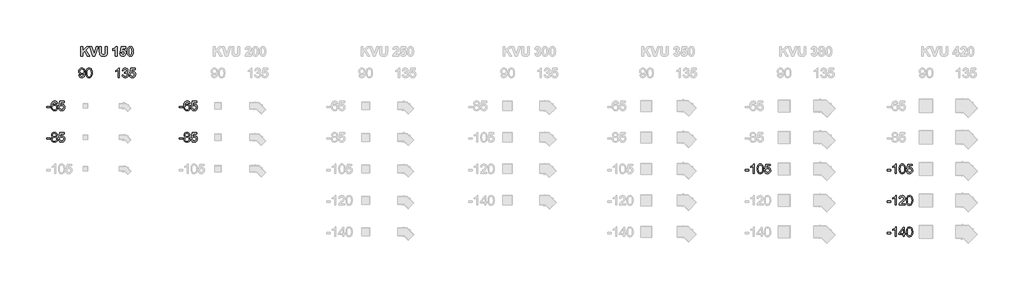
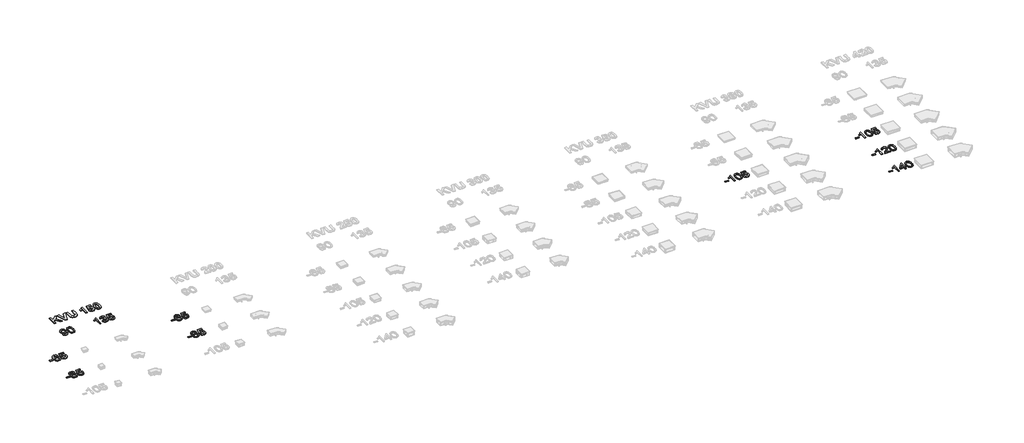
# One storey, part 3 of 6: 11 proxies.
"""IFC4 building model written with IfcOpenShell, lengths in millimetres."""

from ifc_helpers import new_model, si_unit, origin, origin_with_axes, place, context, project, spatial, polyline, outline, extrude, element, save

model = new_model("IFC4")

# Units and contexts
model_context = context("Model", 3, world=origin())
ifc_project = project(units=[si_unit("LENGTHUNIT", "METRE", prefix="MILLI")], contexts=[model_context])

# Site, building, storey
site = spatial("IfcSite", under=ifc_project)
building = spatial("IfcBuilding", under=site)
storey = spatial("IfcBuildingStorey", under=building, Name="Этаж 01", Elevation=0.0)

# Proxies
placement = place(None, origin())
element("IfcBuildingElementProxy", 1, Name="300", ObjectType="300", at=placement, inside=storey, context=model_context, shape_type="SweptSolid", body=[
    extrude(outline(polyline([(-4133.3096408, 1157.6054217), (-4133.3096408, 1195.276538), (-4015.5874023, 1195.276538), (-4015.5874023, 1157.6054217), (-4133.3096408, 1157.6054217)])), origin_with_axes(), (0.0, 0.0, 1.0), 20.0),
    extrude(outline(polyline([(-3789.5607045, 1289.4543288), (-3827.2318208, 1284.7454392), (-3833.3018737, 1303.4154505), (-3841.5056422, 1316.1625616), (-3858.5937609, 1327.9163914), (-3879.2503349, 1331.8343346), (-3896.7615179, 1329.5534662), (-3913.2426313, 1322.7108611), (-3927.396891, 1308.299084), (-3938.9575827, 1288.4610474), (-3946.7658781, 1260.4008482), (-3949.6629488, 1221.3225833), (-3934.5521958, 1238.9533279), (-3916.4432046, 1251.3785423), (-3896.3476506, 1258.7453792), (-3875.2772094, 1261.2009915), (-3857.1774152, 1259.5225299), (-3840.4755726, 1254.4871451), (-3825.1716816, 1246.0948371), (-3811.2657422, 1234.3456059), (-3799.709649, 1219.9384273), (-3791.4552968, 1203.572277), (-3786.5026854, 1185.2471551), (-3784.851815, 1164.9630616), (-3787.9604178, 1137.9881143), (-3797.2862264, 1112.9813357), (-3812.0566885, 1091.7729387), (-3831.4992519, 1076.1931362), (-3854.7309999, 1066.6190072), (-3880.8690157, 1063.4276309), (-3903.3259122, 1065.5429524), (-3923.6077065, 1071.8889168), (-3941.7143984, 1082.4655242), (-3957.6459881, 1097.2727745), (-3970.6345218, 1116.9360671), (-3979.9120458, 1142.0808015), (-3985.4785603, 1172.7069776), (-3987.3340651, 1208.8145954), (-3985.2739259, 1249.2954105), (-3979.0935084, 1283.8441283), (-3968.7928125, 1312.460749), (-3954.3718383, 1335.1452726), (-3938.7414521, 1350.1778506), (-3920.6186653, 1360.9154063), (-3900.003478, 1367.3579398), (-3876.8958901, 1369.5054509), (-3843.8416929, 1364.1895561), (-3817.3725833, 1348.2418716), (-3798.8313308, 1322.9131962), (-3789.5607045, 1289.4543288)]), holes=[polyline([(-3949.6629488, 1165.5516728), (-3947.483248, 1148.8590273), (-3940.9441455, 1132.9205398), (-3930.7906024, 1119.2169355), (-3917.7675798, 1109.2289393), (-3902.0498216, 1103.1312953), (-3883.8120717, 1101.0987472), (-3858.9524458, 1105.3109961), (-3839.4087148, 1117.9477426), (-3826.7443772, 1137.8133704), (-3822.5229313, 1163.7122628), (-3826.6891949, 1188.5718886), (-3839.1879856, 1207.5270084), (-3859.0628104, 1219.5291585), (-3885.357176, 1223.5298752), (-3910.1800137, 1219.5291585), (-3930.9377552, 1207.5270084), (-3944.9816504, 1189.0317411), (-3949.6629488, 1165.5516728)])]), origin_with_axes(), (0.0, 0.0, 1.0), 20.0),
    extrude(outline(polyline([(-3751.8895882, 1148.1876426), (-3714.2184719, 1152.8965322), (-3707.3022904, 1130.2809865), (-3695.2357609, 1114.0849817), (-3678.0740659, 1104.3453059), (-3655.8723874, 1101.0987472), (-3628.869849, 1105.6144987), (-3608.6363393, 1119.1617532), (-3595.9995927, 1140.1770122), (-3591.7873439, 1167.0967772), (-3595.7328783, 1192.4438466), (-3607.5694815, 1211.8312278), (-3627.389124, 1224.1368805), (-3655.2837763, 1228.2387648), (-3673.5583144, 1226.6016899), (-3688.3563676, 1221.6904653), (-3709.5095823, 1204.6943171), (-3747.1806986, 1209.4032066), (-3714.2184719, 1364.7965614), (-3568.2428962, 1364.7965614), (-3568.2428962, 1327.1254451), (-3683.7578427, 1327.1254451), (-3699.8710741, 1244.131267), (-3672.9605061, 1260.4652276), (-3644.7623512, 1265.9098811), (-3626.4165359, 1264.2222224), (-3609.5652413, 1259.1592465), (-3594.2084673, 1250.7209532), (-3580.3462138, 1238.9073426), (-3568.8705948, 1224.4403832), (-3560.6737241, 1208.0420432), (-3555.7556017, 1189.7123228), (-3554.1162276, 1169.4512219), (-3560.0207336, 1131.7801056), (-3567.4013661, 1114.9862926), (-3577.7342517, 1099.5536429), (-3593.3876306, 1083.7485126), (-3611.6529716, 1072.4591339), (-3632.5302748, 1065.6855067), (-3656.0195402, 1063.4276309), (-3693.0192719, 1069.2309694), (-3708.6979427, 1076.4851425), (-3722.4958168, 1086.6409848), (-3733.9760343, 1099.1926587), (-3742.7017354, 1113.6343262), (-3751.8895882, 1148.1876426)])), origin_with_axes(), (0.0, 0.0, 1.0), 20.0),
])
element("IfcBuildingElementProxy", 2, Name="300", ObjectType="300", at=placement, inside=storey, context=model_context, shape_type="SweptSolid", body=[
    extrude(outline(polyline([(-3108.4733893, 2189.3511025), (-3070.802273, 2194.0599921), (-3064.3643381, 2172.6768511), (-3053.8797013, 2158.1179211), (-3039.6058798, 2149.7578028), (-3021.8003913, 2146.9710967), (-3005.8251156, 2148.7645214), (-2991.3029739, 2154.1447956), (-2979.2364444, 2162.523308), (-2970.6280057, 2173.3114475), (-2958.3039589, 2206.0529451), (-2952.8593054, 2249.7573261), (-2953.0800346, 2257.114966), (-2966.1306484, 2241.1856756), (-2983.20957, 2228.5673232), (-3003.0843948, 2220.3451606), (-3024.522718, 2217.6044398), (-3042.4178778, 2219.2783028), (-3058.8736993, 2224.2998921), (-3073.8901825, 2232.6692075), (-3087.4673274, 2244.386249), (-3098.7176187, 2258.8394129), (-3106.753541, 2275.4170953), (-3111.5750944, 2294.1192962), (-3113.1822789, 2314.9460157), (-3111.4969195, 2336.4671124), (-3106.4408413, 2355.7809171), (-3098.0140444, 2372.8874299), (-3086.2165286, 2387.7866507), (-3071.8806271, 2399.8577787), (-3055.8386729, 2408.4800129), (-3038.0906659, 2413.6533535), (-3018.6366061, 2415.3778004), (-2990.5396187, 2411.441463), (-2964.962623, 2399.632451), (-2943.570285, 2380.5393754), (-2928.0272707, 2354.7508476), (-2918.5635064, 2319.1030822), (-2915.4089183, 2270.4322943), (-2918.5543093, 2218.8276474), (-2927.9904825, 2178.9400421), (-2943.6346643, 2148.9668565), (-2965.4040814, 2127.1054689), (-2992.3606346, 2113.7513525), (-3023.5662248, 2109.2999804), (-3055.7742935, 2114.5514959), (-3081.4708509, 2130.3060423), (-3099.4418864, 2155.5703383), (-3108.4733893, 2189.3511025)]), holes=[polyline([(-2953.0800346, 2315.8289325), (-2957.1451306, 2341.3599429), (-2969.3404188, 2361.0048415), (-2988.2679474, 2373.5312234), (-3012.529765, 2377.7066841), (-3037.6928935, 2373.2093267), (-3057.8528268, 2359.7172545), (-3071.0965786, 2339.0698775), (-3075.5111626, 2313.1066057), (-3071.3357019, 2289.8288725), (-3058.80932, 2271.3519992), (-3039.1460273, 2259.2946669), (-3013.5598346, 2255.2755561), (-2989.491155, 2259.2946669), (-2970.1129709, 2271.3519992), (-2957.3382687, 2290.5094541), (-2953.0800346, 2315.8289325)])]), origin_with_axes(), (0.0, 0.0, 1.0), 20.0),
    extrude(outline(polyline([(-2882.4466915, 2262.265314), (-2879.6783795, 2310.5038406), (-2871.3734434, 2348.9751002), (-2857.6146568, 2378.2677041), (-2838.4847931, 2398.9702634), (-2813.8458964, 2411.2759161), (-2783.5600112, 2415.3778004), (-2760.3466573, 2412.9497792), (-2739.5613246, 2405.6657157), (-2722.1789003, 2393.8107184), (-2709.1742718, 2377.6698959), (-2699.3518225, 2357.3812038), (-2691.515936, 2333.082598), (-2686.3839822, 2302.2264957), (-2684.6733309, 2262.265314), (-2687.4140518, 2214.3026988), (-2695.6362143, 2175.9234097), (-2709.3122275, 2146.6032147), (-2728.4145001, 2125.817882), (-2753.108579, 2113.4294558), (-2783.5600112, 2109.2999804), (-2804.3085557, 2111.0934051), (-2822.7026555, 2116.4736793), (-2838.7423105, 2125.4408029), (-2852.4275207, 2137.994776), (-2865.5609079, 2160.6884966), (-2874.9418988, 2188.9648264), (-2880.5704933, 2222.8237656), (-2882.4466915, 2262.265314)]), holes=[polyline([(-2844.7755752, 2262.3388904), (-2840.3609913, 2203.082298), (-2834.8427613, 2182.8142993), (-2827.1172394, 2168.786499), (-2807.3987645, 2152.4249473), (-2783.5600112, 2146.9710967), (-2759.7212579, 2152.4433414), (-2740.002783, 2168.8600754), (-2732.2772611, 2182.9108683), (-2726.7590311, 2203.1742685), (-2722.3444472, 2262.3388904), (-2726.6118783, 2320.2619105), (-2731.9461673, 2340.4632306), (-2739.4141718, 2354.824424), (-2759.0958585, 2371.986119), (-2784.0014696, 2377.7066841), (-2807.5827055, 2372.6667007), (-2826.5286282, 2357.5467507), (-2834.5116675, 2341.9117659), (-2840.2138385, 2320.8321276), (-2844.7755752, 2262.3388904)])]), origin_with_axes(), (0.0, 0.0, 1.0), 20.0),
])
element("IfcBuildingElementProxy", 3, Name="300", ObjectType="300", at=placement, inside=storey, context=model_context, shape_type="SweptSolid", body=[
    extrude(outline(polyline([(-1827.2833864, 2114.0088699), (-1864.9545027, 2114.0088699), (-1864.9545027, 2348.8647356), (-1900.6390563, 2323.4440898), (-1940.2967353, 2304.4245906), (-1940.2967353, 2340.0355677), (-1910.7098259, 2356.130405), (-1885.0776479, 2375.2786629), (-1864.8717293, 2395.6409313), (-1851.5635981, 2415.3778004), (-1827.2833864, 2415.3778004), (-1827.2833864, 2114.0088699)])), origin_with_axes(), (0.0, 0.0, 1.0), 20.0),
    extrude(outline(polyline([(-1737.8144852, 2194.0599921), (-1700.1433689, 2198.7688816), (-1691.7096741, 2175.0956752), (-1679.3580362, 2159.1112025), (-1662.4814496, 2150.0061231), (-1640.4729093, 2146.9710967), (-1614.6475932, 2151.1465573), (-1594.7083891, 2163.6729393), (-1581.9612779, 2182.3613446), (-1577.7122409, 2205.0228755), (-1581.9244897, 2226.5347752), (-1594.5612363, 2243.9815788), (-1613.6911, 2255.5422705), (-1637.3827005, 2259.3958344), (-1663.7966278, 2255.2755561), (-1659.602773, 2292.9466724), (-1653.5695083, 2292.505214), (-1630.9999479, 2295.2091466), (-1610.8216205, 2303.3209446), (-1596.5845872, 2317.042943), (-1591.8389095, 2336.577477), (-1595.2786062, 2352.8470582), (-1605.5976961, 2366.0448248), (-1621.3430455, 2374.7912192), (-1641.0615205, 2377.7066841), (-1660.8167836, 2374.7636281), (-1676.9668032, 2365.9344602), (-1688.7574211, 2351.2191804), (-1695.4344793, 2330.6177887), (-1733.1055956, 2335.3266782), (-1722.0139535, 2369.1534277), (-1702.2770845, 2394.4085266), (-1675.274546, 2410.1354819), (-1642.3858956, 2415.3778004), (-1618.7034922, 2412.7934293), (-1596.9524692, 2405.0403163), (-1578.6135518, 2392.80824), (-1565.1674649, 2376.7869791), (-1556.9177111, 2358.3285), (-1554.1677932, 2338.784769), (-1556.7797554, 2320.5746102), (-1564.6156419, 2304.0567086), (-1577.5650881, 2289.9852223), (-1595.5177295, 2279.1143093), (-1571.9364936, 2269.5861657), (-1554.4620988, 2253.3625697), (-1543.6463681, 2231.3264382), (-1540.0411246, 2204.3606879), (-1541.8437464, 2185.2492183), (-1547.2516117, 2167.6460648), (-1556.2647206, 2151.5512275), (-1568.883073, 2136.9647064), (-1584.2559419, 2124.8613888), (-1601.5326001, 2116.2161619), (-1620.7130476, 2111.0290257), (-1641.7972844, 2109.2999804), (-1660.8535718, 2110.7761069), (-1678.217602, 2115.2044864), (-1693.889375, 2122.5851189), (-1707.8688908, 2132.9180045), (-1719.5905309, 2145.5961377), (-1728.4886766, 2160.0125134), (-1734.5633281, 2176.1671315), (-1737.8144852, 2194.0599921)])), origin_with_axes(), (0.0, 0.0, 1.0), 20.0),
    extrude(outline(polyline([(-1507.0788978, 2194.0599921), (-1469.4077815, 2198.7688816), (-1462.4916, 2176.1533359), (-1450.4250706, 2159.9573311), (-1433.2633755, 2150.2176553), (-1411.0616971, 2146.9710967), (-1384.0591586, 2151.4868482), (-1363.8256489, 2165.0341026), (-1351.1889024, 2186.0493616), (-1346.9766535, 2212.9691266), (-1350.9221879, 2238.3161961), (-1362.7587911, 2257.7035772), (-1382.5784336, 2270.00923), (-1410.4730859, 2274.1111142), (-1428.747624, 2272.4740393), (-1443.5456772, 2267.5628147), (-1464.698892, 2250.5666665), (-1502.3700083, 2255.2755561), (-1469.4077815, 2410.6689108), (-1323.4322058, 2410.6689108), (-1323.4322058, 2372.9977945), (-1438.9471523, 2372.9977945), (-1455.0603837, 2290.0036164), (-1428.1498157, 2306.337577), (-1399.9516608, 2311.7822305), (-1381.6058456, 2310.0945719), (-1364.7545509, 2305.0315959), (-1349.3977769, 2296.5933026), (-1335.5355235, 2284.7796921), (-1324.0599045, 2270.3127326), (-1315.8630338, 2253.9143927), (-1310.9449113, 2235.5846723), (-1309.3055372, 2215.3235714), (-1315.2100432, 2177.6524551), (-1322.5906758, 2160.858642), (-1332.9235613, 2145.4259923), (-1348.5769402, 2129.6208621), (-1366.8422813, 2118.3314834), (-1387.7195845, 2111.5578561), (-1411.2088499, 2109.2999804), (-1448.2085815, 2115.1033188), (-1463.8872523, 2122.3574919), (-1477.6851264, 2132.5133343), (-1489.1653439, 2145.0650081), (-1497.891045, 2159.5066757), (-1507.0788978, 2194.0599921)])), origin_with_axes(), (0.0, 0.0, 1.0), 20.0),
])
element("IfcBuildingElementProxy", 4, Name="300", ObjectType="300", at=placement, inside=storey, context=model_context, shape_type="SweptSolid", body=[
    extrude(outline(polyline([(-4133.3096408, 157.6054217), (-4133.3096408, 195.276538), (-4015.5874023, 195.276538), (-4015.5874023, 157.6054217), (-4133.3096408, 157.6054217)])), origin_with_axes(), (0.0, 0.0, 1.0), 20.0),
    extrude(outline(polyline([(-3927.7371819, 234.1248767), (-3947.9063123, 244.0576906), (-3962.060572, 257.5221716), (-3970.4206904, 274.2424083), (-3973.2073965, 293.9424891), (-3971.6898833, 309.3061609), (-3967.1373436, 323.3914428), (-3959.5497774, 336.1983348), (-3948.9271848, 347.7268368), (-3935.780002, 357.2549805), (-3920.6186653, 364.0607974), (-3884.25353, 369.5054509), (-3847.6676656, 363.9320387), (-3832.340782, 356.9652734), (-3818.9912641, 347.211802), (-3808.1755334, 335.4579723), (-3800.4500115, 322.4901319), (-3795.8146984, 308.308281), (-3794.269594, 292.9124195), (-3797.0195119, 273.8469351), (-3805.2692657, 257.411807), (-3819.1108258, 244.0300994), (-3838.6361626, 234.1248767), (-3815.4503999, 222.1779089), (-3798.5738134, 204.5839525), (-3788.2823146, 182.189136), (-3784.851815, 155.8395881), (-3786.5532692, 137.0500152), (-3791.6576319, 119.8239408), (-3800.164903, 104.1613649), (-3812.0750826, 90.0622874), (-3826.7627713, 78.4096252), (-3843.6025696, 70.0862951), (-3862.5944776, 65.092297), (-3883.7384953, 63.4276309), (-3904.8825129, 65.0991948), (-3923.8744209, 70.1138862), (-3940.7142193, 78.4717053), (-3955.4019079, 90.172652), (-3967.3120875, 104.3705977), (-3975.8193586, 120.2194139), (-3980.9237213, 137.7191006), (-3982.6251756, 156.8696577), (-3979.0567202, 184.2400782), (-3968.3513541, 206.7544563), (-3951.0609004, 223.6402398), (-3927.7371819, 234.1248767)]), holes=[polyline([(-3935.5362802, 292.8388431), (-3932.1977511, 276.3945179), (-3922.1821638, 263.2611307), (-3905.7838238, 254.652692), (-3883.2970369, 251.7832125), (-3861.3344817, 254.6342979), (-3845.1844622, 263.1875543), (-3835.2516483, 275.8794832), (-3831.9407103, 291.146586), (-3835.3620129, 306.9931029), (-3845.6259206, 320.098899), (-3861.9966693, 328.9004757), (-3883.7384953, 331.8343346), (-3905.6182769, 328.9648551), (-3921.9614346, 320.3564164), (-3932.1425688, 307.7380639), (-3935.5362802, 292.8388431)]), polyline([(-3944.9540593, 158.1940329), (-3938.6632771, 129.8303311), (-3929.9536709, 117.6626341), (-3916.4064164, 108.6035399), (-3900.1828204, 102.9749454), (-3883.4441897, 101.0987472), (-3857.8028146, 105.0442816), (-3838.5625862, 116.8808848), (-3826.532845, 134.8059351), (-3822.5229313, 157.0168105), (-3826.6616037, 179.604765), (-3839.077621, 197.9252884), (-3858.7593078, 210.0653942), (-3884.6949884, 214.1120962), (-3909.9776786, 210.1205765), (-3929.0247689, 198.1460176), (-3940.9717367, 180.1749821), (-3944.9540593, 158.1940329)])]), origin_with_axes(), (0.0, 0.0, 1.0), 20.0),
    extrude(outline(polyline([(-3751.8895882, 148.1876426), (-3714.2184719, 152.8965322), (-3707.3022904, 130.2809865), (-3695.2357609, 114.0849817), (-3678.0740659, 104.3453059), (-3655.8723874, 101.0987472), (-3628.869849, 105.6144987), (-3608.6363393, 119.1617532), (-3595.9995927, 140.1770122), (-3591.7873439, 167.0967772), (-3595.7328783, 192.4438466), (-3607.5694815, 211.8312278), (-3627.389124, 224.1368805), (-3655.2837763, 228.2387648), (-3673.5583144, 226.6016899), (-3688.3563676, 221.6904653), (-3709.5095823, 204.6943171), (-3747.1806986, 209.4032066), (-3714.2184719, 364.7965614), (-3568.2428962, 364.7965614), (-3568.2428962, 327.1254451), (-3683.7578427, 327.1254451), (-3699.8710741, 244.131267), (-3672.9605061, 260.4652276), (-3644.7623512, 265.9098811), (-3626.4165359, 264.2222224), (-3609.5652413, 259.1592465), (-3594.2084673, 250.7209532), (-3580.3462138, 238.9073426), (-3568.8705948, 224.4403832), (-3560.6737241, 208.0420432), (-3555.7556017, 189.7123228), (-3554.1162276, 169.4512219), (-3560.0207336, 131.7801056), (-3567.4013661, 114.9862926), (-3577.7342517, 99.5536429), (-3593.3876306, 83.7485126), (-3611.6529716, 72.4591339), (-3632.5302748, 65.6855067), (-3656.0195402, 63.4276309), (-3693.0192719, 69.2309694), (-3708.6979427, 76.4851425), (-3722.4958168, 86.6409848), (-3733.9760343, 99.1926587), (-3742.7017354, 113.6343262), (-3751.8895882, 148.1876426)])), origin_with_axes(), (0.0, 0.0, 1.0), 20.0),
])
element("IfcBuildingElementProxy", 5, Name="300", ObjectType="300", at=placement, inside=storey, context=model_context, shape_type="SweptSolid", body=[
    extrude(outline(polyline([(66.6903592, 1157.6054217), (66.6903592, 1195.276538), (184.4125977, 1195.276538), (184.4125977, 1157.6054217), (66.6903592, 1157.6054217)])), origin_with_axes(), (0.0, 0.0, 1.0), 20.0),
    extrude(outline(polyline([(410.4392955, 1289.4543288), (372.7681792, 1284.7454392), (366.6981263, 1303.4154505), (358.4943578, 1316.1625616), (341.4062391, 1327.9163914), (320.7496651, 1331.8343346), (303.2384821, 1329.5534662), (286.7573687, 1322.7108611), (272.603109, 1308.299084), (261.0424173, 1288.4610474), (253.2341219, 1260.4008482), (250.3370512, 1221.3225833), (265.4478042, 1238.9533279), (283.5567954, 1251.3785423), (303.6523494, 1258.7453792), (324.7227906, 1261.2009915), (342.8225848, 1259.5225299), (359.5244274, 1254.4871451), (374.8283184, 1246.0948371), (388.7342578, 1234.3456059), (400.290351, 1219.9384273), (408.5447032, 1203.572277), (413.4973146, 1185.2471551), (415.148185, 1164.9630616), (412.0395822, 1137.9881143), (402.7137736, 1112.9813357), (387.9433115, 1091.7729387), (368.5007481, 1076.1931362), (345.2690001, 1066.6190072), (319.1309843, 1063.4276309), (296.6740878, 1065.5429524), (276.3922935, 1071.8889168), (258.2856016, 1082.4655242), (242.3540119, 1097.2727745), (229.3654782, 1116.9360671), (220.0879542, 1142.0808015), (214.5214397, 1172.7069776), (212.6659349, 1208.8145954), (214.7260741, 1249.2954105), (220.9064916, 1283.8441283), (231.2071875, 1312.460749), (245.6281617, 1335.1452726), (261.2585479, 1350.1778506), (279.3813347, 1360.9154063), (299.996522, 1367.3579398), (323.1041099, 1369.5054509), (356.1583071, 1364.1895561), (382.6274167, 1348.2418716), (401.1686692, 1322.9131962), (410.4392955, 1289.4543288)]), holes=[polyline([(250.3370512, 1165.5516728), (252.516752, 1148.8590273), (259.0558545, 1132.9205398), (269.2093976, 1119.2169355), (282.2324202, 1109.2289393), (297.9501784, 1103.1312953), (316.1879283, 1101.0987472), (341.0475542, 1105.3109961), (360.5912852, 1117.9477426), (373.2556228, 1137.8133704), (377.4770687, 1163.7122628), (373.3108051, 1188.5718886), (360.8120144, 1207.5270084), (340.9371896, 1219.5291585), (314.642824, 1223.5298752), (289.8199863, 1219.5291585), (269.0622448, 1207.5270084), (255.0183496, 1189.0317411), (250.3370512, 1165.5516728)])]), origin_with_axes(), (0.0, 0.0, 1.0), 20.0),
    extrude(outline(polyline([(448.1104118, 1148.1876426), (485.7815281, 1152.8965322), (492.6977096, 1130.2809865), (504.7642391, 1114.0849817), (521.9259341, 1104.3453059), (544.1276126, 1101.0987472), (571.130151, 1105.6144987), (591.3636607, 1119.1617532), (604.0004073, 1140.1770122), (608.2126561, 1167.0967772), (604.2671217, 1192.4438466), (592.4305185, 1211.8312278), (572.610876, 1224.1368805), (544.7162237, 1228.2387648), (526.4416856, 1226.6016899), (511.6436324, 1221.6904653), (490.4904177, 1204.6943171), (452.8193014, 1209.4032066), (485.7815281, 1364.7965614), (631.7571038, 1364.7965614), (631.7571038, 1327.1254451), (516.2421573, 1327.1254451), (500.1289259, 1244.131267), (527.0394939, 1260.4652276), (555.2376488, 1265.9098811), (573.5834641, 1264.2222224), (590.4347587, 1259.1592465), (605.7915327, 1250.7209532), (619.6537862, 1238.9073426), (631.1294052, 1224.4403832), (639.3262759, 1208.0420432), (644.2443983, 1189.7123228), (645.8837724, 1169.4512219), (639.9792664, 1131.7801056), (632.5986339, 1114.9862926), (622.2657483, 1099.5536429), (606.6123694, 1083.7485126), (588.3470284, 1072.4591339), (567.4697252, 1065.6855067), (543.9804598, 1063.4276309), (506.9807281, 1069.2309694), (491.3020573, 1076.4851425), (477.5041832, 1086.6409848), (466.0239657, 1099.1926587), (457.2982646, 1113.6343262), (448.1104118, 1148.1876426)])), origin_with_axes(), (0.0, 0.0, 1.0), 20.0),
])
element("IfcBuildingElementProxy", 6, Name="300", ObjectType="300", at=placement, inside=storey, context=model_context, shape_type="SweptSolid", body=[
    extrude(outline(polyline([(66.6903592, 157.6054217), (66.6903592, 195.276538), (184.4125977, 195.276538), (184.4125977, 157.6054217), (66.6903592, 157.6054217)])), origin_with_axes(), (0.0, 0.0, 1.0), 20.0),
    extrude(outline(polyline([(272.2628181, 234.1248767), (252.0936877, 244.0576906), (237.939428, 257.5221716), (229.5793096, 274.2424083), (226.7926035, 293.9424891), (228.3101167, 309.3061609), (232.8626564, 323.3914428), (240.4502226, 336.1983348), (251.0728152, 347.7268368), (264.219998, 357.2549805), (279.3813347, 364.0607974), (315.74647, 369.5054509), (352.3323344, 363.9320387), (367.659218, 356.9652734), (381.0087359, 347.211802), (391.8244666, 335.4579723), (399.5499885, 322.4901319), (404.1853016, 308.308281), (405.730406, 292.9124195), (402.9804881, 273.8469351), (394.7307343, 257.411807), (380.8891742, 244.0300994), (361.3638374, 234.1248767), (384.5496001, 222.1779089), (401.4261866, 204.5839525), (411.7176854, 182.189136), (415.148185, 155.8395881), (413.4467308, 137.0500152), (408.3423681, 119.8239408), (399.835097, 104.1613649), (387.9249174, 90.0622874), (373.2372287, 78.4096252), (356.3974304, 70.0862951), (337.4055224, 65.092297), (316.2615047, 63.4276309), (295.1174871, 65.0991948), (276.1255791, 70.1138862), (259.2857807, 78.4717053), (244.5980921, 90.172652), (232.6879125, 104.3705977), (224.1806414, 120.2194139), (219.0762787, 137.7191006), (217.3748244, 156.8696577), (220.9432798, 184.2400782), (231.6486459, 206.7544563), (248.9390996, 223.6402398), (272.2628181, 234.1248767)]), holes=[polyline([(264.4637198, 292.8388431), (267.8022489, 276.3945179), (277.8178362, 263.2611307), (294.2161762, 254.652692), (316.7029631, 251.7832125), (338.6655183, 254.6342979), (354.8155378, 263.1875543), (364.7483517, 275.8794832), (368.0592897, 291.146586), (364.6379871, 306.9931029), (354.3740794, 320.098899), (338.0033307, 328.9004757), (316.2615047, 331.8343346), (294.3817231, 328.9648551), (278.0385654, 320.3564164), (267.8574312, 307.7380639), (264.4637198, 292.8388431)]), polyline([(255.0459407, 158.1940329), (261.3367229, 129.8303311), (270.0463291, 117.6626341), (283.5935836, 108.6035399), (299.8171796, 102.9749454), (316.5558103, 101.0987472), (342.1971854, 105.0442816), (361.4374138, 116.8808848), (373.467155, 134.8059351), (377.4770687, 157.0168105), (373.3383963, 179.604765), (360.922379, 197.9252884), (341.2406922, 210.0653942), (315.3050116, 214.1120962), (290.0223214, 210.1205765), (270.9752311, 198.1460176), (259.0282633, 180.1749821), (255.0459407, 158.1940329)])]), origin_with_axes(), (0.0, 0.0, 1.0), 20.0),
    extrude(outline(polyline([(448.1104118, 148.1876426), (485.7815281, 152.8965322), (492.6977096, 130.2809865), (504.7642391, 114.0849817), (521.9259341, 104.3453059), (544.1276126, 101.0987472), (571.130151, 105.6144987), (591.3636607, 119.1617532), (604.0004073, 140.1770122), (608.2126561, 167.0967772), (604.2671217, 192.4438466), (592.4305185, 211.8312278), (572.610876, 224.1368805), (544.7162237, 228.2387648), (526.4416856, 226.6016899), (511.6436324, 221.6904653), (490.4904177, 204.6943171), (452.8193014, 209.4032066), (485.7815281, 364.7965614), (631.7571038, 364.7965614), (631.7571038, 327.1254451), (516.2421573, 327.1254451), (500.1289259, 244.131267), (527.0394939, 260.4652276), (555.2376488, 265.9098811), (573.5834641, 264.2222224), (590.4347587, 259.1592465), (605.7915327, 250.7209532), (619.6537862, 238.9073426), (631.1294052, 224.4403832), (639.3262759, 208.0420432), (644.2443983, 189.7123228), (645.8837724, 169.4512219), (639.9792664, 131.7801056), (632.5986339, 114.9862926), (622.2657483, 99.5536429), (606.6123694, 83.7485126), (588.3470284, 72.4591339), (567.4697252, 65.6855067), (543.9804598, 63.4276309), (506.9807281, 69.2309694), (491.3020573, 76.4851425), (477.5041832, 86.6409848), (466.0239657, 99.1926587), (457.2982646, 113.6343262), (448.1104118, 148.1876426)])), origin_with_axes(), (0.0, 0.0, 1.0), 20.0),
])
element("IfcBuildingElementProxy", 7, Name="300", ObjectType="300", at=placement, inside=storey, context=model_context, shape_type="SweptSolid", body=[
    extrude(outline(polyline([(18006.6903592, -842.3945783), (18006.6903592, -804.723462), (18124.4125977, -804.723462), (18124.4125977, -842.3945783), (18006.6903592, -842.3945783)])), origin_with_axes(), (0.0, 0.0, 1.0), 20.0),
    extrude(outline(polyline([(18298.6415106, -931.8634795), (18260.9703943, -931.8634795), (18260.9703943, -697.0076138), (18225.2858408, -722.4282597), (18185.6281617, -741.4477588), (18185.6281617, -705.8367817), (18215.2150711, -689.7419444), (18240.8472491, -670.5936865), (18261.0531677, -650.2314181), (18274.3612989, -630.4945491), (18298.6415106, -630.4945491), (18298.6415106, -931.8634795)])), origin_with_axes(), (0.0, 0.0, 1.0), 20.0),
    extrude(outline(polyline([(18388.1104118, -783.6070355), (18390.8787238, -735.3685089), (18399.1836599, -696.8972492), (18412.9424465, -667.6046453), (18432.0723102, -646.9020861), (18456.7112069, -634.5964333), (18486.9970921, -630.4945491), (18510.210446, -632.9225702), (18530.9957787, -640.2066337), (18548.378203, -652.061631), (18561.3828315, -668.2024536), (18571.2052808, -688.4911456), (18579.0411673, -712.7897514), (18584.1731211, -743.6458537), (18585.8837724, -783.6070355), (18583.1430516, -831.5696506), (18574.920889, -869.9489397), (18561.2448758, -899.2691348), (18542.1426032, -920.0544675), (18517.4485243, -932.4428937), (18486.9970921, -936.5723691), (18466.2485476, -934.7789443), (18447.8544478, -929.3986702), (18431.8147928, -920.4315465), (18418.1295826, -907.8775734), (18404.9961954, -885.1838529), (18395.6152045, -856.907523), (18389.98661, -823.0485839), (18388.1104118, -783.6070355)]), holes=[polyline([(18425.7815281, -783.5334591), (18430.1961121, -842.7900514), (18435.714342, -863.0580501), (18443.4398639, -877.0858504), (18463.1583388, -893.4474022), (18486.9970921, -898.9012528), (18510.8358454, -893.4290081), (18530.5543203, -877.012274), (18538.2798422, -862.9614811), (18543.7980722, -842.6980809), (18548.2126561, -783.5334591), (18543.945225, -725.6104389), (18538.610936, -705.4091189), (18531.1429315, -691.0479255), (18511.4612448, -673.8862304), (18486.5556337, -668.1656654), (18462.9743978, -673.2056487), (18444.0284751, -688.3255987), (18436.0454358, -703.9605835), (18430.3432649, -725.0402218), (18425.7815281, -783.5334591)])]), origin_with_axes(), (0.0, 0.0, 1.0), 20.0),
    extrude(outline(polyline([(18618.8459992, -851.8123574), (18656.5171155, -847.1034678), (18663.433297, -869.7190135), (18675.4998264, -885.9150183), (18692.6615215, -895.6546941), (18714.8631999, -898.9012528), (18741.8657384, -894.3855013), (18762.0992481, -880.8382468), (18774.7359946, -859.8229878), (18778.9482435, -832.9032228), (18775.0027091, -807.5561534), (18763.1661059, -788.1687722), (18743.3464634, -775.8631195), (18715.4518111, -771.7612352), (18697.177273, -773.3983101), (18682.3792198, -778.3095347), (18661.226005, -795.3056829), (18623.5548887, -790.5967934), (18656.5171155, -635.2034386), (18802.4926912, -635.2034386), (18802.4926912, -672.8745549), (18686.9777447, -672.8745549), (18670.8645133, -755.868733), (18697.7750813, -739.5347724), (18725.9732362, -734.0901189), (18744.3190514, -735.7777776), (18761.1703461, -740.8407535), (18776.5271201, -749.2790468), (18790.3893735, -761.0926574), (18801.8649925, -775.5596168), (18810.0618632, -791.9579568), (18814.9799857, -810.2876772), (18816.6193598, -830.5487781), (18810.7148538, -868.2198944), (18803.3342212, -885.0137074), (18793.0013357, -900.4463571), (18777.3479568, -916.2514874), (18759.0826158, -927.5408661), (18738.2053125, -934.3144933), (18714.7160471, -936.5723691), (18677.7163155, -930.7690306), (18662.0376447, -923.5148575), (18648.2397706, -913.3590152), (18636.7595531, -900.8073413), (18628.033852, -886.3656738), (18618.8459992, -851.8123574)])), origin_with_axes(), (0.0, 0.0, 1.0), 20.0),
])
element("IfcBuildingElementProxy", 8, Name="300", ObjectType="300", at=placement, inside=storey, context=model_context, shape_type="SweptSolid", body=[
    extrude(outline(polyline([(22506.6903592, -842.3945783), (22506.6903592, -804.723462), (22624.4125977, -804.723462), (22624.4125977, -842.3945783), (22506.6903592, -842.3945783)])), origin_with_axes(), (0.0, 0.0, 1.0), 20.0),
    extrude(outline(polyline([(22798.6415106, -931.8634795), (22760.9703943, -931.8634795), (22760.9703943, -697.0076138), (22725.2858408, -722.4282597), (22685.6281617, -741.4477588), (22685.6281617, -705.8367817), (22715.2150711, -689.7419444), (22740.8472491, -670.5936865), (22761.0531677, -650.2314181), (22774.3612989, -630.4945491), (22798.6415106, -630.4945491), (22798.6415106, -931.8634795)])), origin_with_axes(), (0.0, 0.0, 1.0), 20.0),
    extrude(outline(polyline([(22888.1104118, -783.6070355), (22890.8787238, -735.3685089), (22899.1836599, -696.8972492), (22912.9424465, -667.6046453), (22932.0723102, -646.9020861), (22956.7112069, -634.5964333), (22986.9970921, -630.4945491), (23010.210446, -632.9225702), (23030.9957787, -640.2066337), (23048.378203, -652.061631), (23061.3828315, -668.2024536), (23071.2052808, -688.4911456), (23079.0411673, -712.7897514), (23084.1731211, -743.6458537), (23085.8837724, -783.6070355), (23083.1430516, -831.5696506), (23074.920889, -869.9489397), (23061.2448758, -899.2691348), (23042.1426032, -920.0544675), (23017.4485243, -932.4428937), (22986.9970921, -936.5723691), (22966.2485476, -934.7789443), (22947.8544478, -929.3986702), (22931.8147928, -920.4315465), (22918.1295826, -907.8775734), (22904.9961954, -885.1838529), (22895.6152045, -856.907523), (22889.98661, -823.0485839), (22888.1104118, -783.6070355)]), holes=[polyline([(22925.7815281, -783.5334591), (22930.1961121, -842.7900514), (22935.714342, -863.0580501), (22943.4398639, -877.0858504), (22963.1583388, -893.4474022), (22986.9970921, -898.9012528), (23010.8358454, -893.4290081), (23030.5543203, -877.012274), (23038.2798422, -862.9614811), (23043.7980722, -842.6980809), (23048.2126561, -783.5334591), (23043.945225, -725.6104389), (23038.610936, -705.4091189), (23031.1429315, -691.0479255), (23011.4612448, -673.8862304), (22986.5556337, -668.1656654), (22962.9743978, -673.2056487), (22944.0284751, -688.3255987), (22936.0454358, -703.9605835), (22930.3432649, -725.0402218), (22925.7815281, -783.5334591)])]), origin_with_axes(), (0.0, 0.0, 1.0), 20.0),
    extrude(outline(polyline([(23118.8459992, -851.8123574), (23156.5171155, -847.1034678), (23163.433297, -869.7190135), (23175.4998264, -885.9150183), (23192.6615215, -895.6546941), (23214.8631999, -898.9012528), (23241.8657384, -894.3855013), (23262.0992481, -880.8382468), (23274.7359946, -859.8229878), (23278.9482435, -832.9032228), (23275.0027091, -807.5561534), (23263.1661059, -788.1687722), (23243.3464634, -775.8631195), (23215.4518111, -771.7612352), (23197.177273, -773.3983101), (23182.3792198, -778.3095347), (23161.226005, -795.3056829), (23123.5548887, -790.5967934), (23156.5171155, -635.2034386), (23302.4926912, -635.2034386), (23302.4926912, -672.8745549), (23186.9777447, -672.8745549), (23170.8645133, -755.868733), (23197.7750813, -739.5347724), (23225.9732362, -734.0901189), (23244.3190514, -735.7777776), (23261.1703461, -740.8407535), (23276.5271201, -749.2790468), (23290.3893735, -761.0926574), (23301.8649925, -775.5596168), (23310.0618632, -791.9579568), (23314.9799857, -810.2876772), (23316.6193598, -830.5487781), (23310.7148538, -868.2198944), (23303.3342212, -885.0137074), (23293.0013357, -900.4463571), (23277.3479568, -916.2514874), (23259.0826158, -927.5408661), (23238.2053125, -934.3144933), (23214.7160471, -936.5723691), (23177.7163155, -930.7690306), (23162.0376447, -923.5148575), (23148.2397706, -913.3590152), (23136.7595531, -900.8073413), (23128.033852, -886.3656738), (23118.8459992, -851.8123574)])), origin_with_axes(), (0.0, 0.0, 1.0), 20.0),
])
element("IfcBuildingElementProxy", 9, Name="300", ObjectType="300", at=placement, inside=storey, context=model_context, shape_type="SweptSolid", body=[
    extrude(outline(polyline([(22506.6903592, -1842.3945783), (22506.6903592, -1804.723462), (22624.4125977, -1804.723462), (22624.4125977, -1842.3945783), (22506.6903592, -1842.3945783)])), origin_with_axes(), (0.0, 0.0, 1.0), 20.0),
    extrude(outline(polyline([(22798.6415106, -1931.8634795), (22760.9703943, -1931.8634795), (22760.9703943, -1697.0076138), (22725.2858408, -1722.4282597), (22685.6281617, -1741.4477588), (22685.6281617, -1705.8367817), (22715.2150711, -1689.7419444), (22740.8472491, -1670.5936865), (22761.0531677, -1650.2314181), (22774.3612989, -1630.4945491), (22798.6415106, -1630.4945491), (22798.6415106, -1931.8634795)])), origin_with_axes(), (0.0, 0.0, 1.0), 20.0),
    extrude(outline(polyline([(23081.1748829, -1894.1923632), (23081.1748829, -1931.8634795), (22883.4015223, -1931.8634795), (22887.4482242, -1905.8910107), (22896.7372446, -1885.5931216), (22910.3304843, -1865.9022378), (22929.993777, -1845.291649), (22957.4929561, -1822.234645), (22998.1439166, -1786.1270271), (23022.5344929, -1759.4739766), (23034.729781, -1737.8425153), (23038.794877, -1716.7996651), (23034.9597072, -1697.9365158), (23023.4541978, -1682.2555458), (23005.7682709, -1671.6881355), (22983.3918486, -1668.1656654), (22959.8933861, -1671.605362), (22941.6372421, -1681.924452), (22929.8558212, -1698.3135949), (22925.7815281, -1719.9634503), (22888.1104118, -1715.2545608), (22897.2430823, -1678.8158491), (22905.7894409, -1664.2799118), (22916.9891484, -1652.1995868), (22930.5846874, -1642.7036328), (22946.3185405, -1635.9208085), (22984.201189, -1630.4945491), (23004.3910127, -1632.0028653), (23022.3597489, -1636.5278138), (23038.1073976, -1644.0693947), (23051.6339587, -1654.627608), (23062.4979738, -1667.4207043), (23070.2579847, -1681.6669346), (23074.9139912, -1697.3662987), (23076.4659933, -1714.5187968), (23074.7921303, -1732.5358175), (23069.770541, -1750.2401385), (23060.8585997, -1768.2479622), (23047.5136803, -1787.1754908), (23026.240904, -1809.7726424), (22993.5453916, -1838.7893347), (22950.2088926, -1875.0257113), (22933.2127444, -1894.1923632), (23081.1748829, -1894.1923632)])), origin_with_axes(), (0.0, 0.0, 1.0), 20.0),
    extrude(outline(polyline([(23118.8459992, -1783.6070355), (23121.6143112, -1735.3685089), (23129.9192472, -1696.8972492), (23143.6780339, -1667.6046453), (23162.8078976, -1646.9020861), (23187.4467942, -1634.5964333), (23217.7326795, -1630.4945491), (23240.9460334, -1632.9225702), (23261.7313661, -1640.2066337), (23279.1137904, -1652.061631), (23292.1184189, -1668.2024536), (23301.9408682, -1688.4911456), (23309.7767547, -1712.7897514), (23314.9087085, -1743.6458537), (23316.6193598, -1783.6070355), (23313.8786389, -1831.5696506), (23305.6564763, -1869.9489397), (23291.9804632, -1899.2691348), (23272.8781906, -1920.0544675), (23248.1841116, -1932.4428937), (23217.7326795, -1936.5723691), (23196.984135, -1934.7789443), (23178.5900352, -1929.3986702), (23162.5503802, -1920.4315465), (23148.86517, -1907.8775734), (23135.7317828, -1885.1838529), (23126.3507919, -1856.907523), (23120.7221974, -1823.0485839), (23118.8459992, -1783.6070355)]), holes=[polyline([(23156.5171155, -1783.5334591), (23160.9316994, -1842.7900514), (23166.4499294, -1863.0580501), (23174.1754513, -1877.0858504), (23193.8939262, -1893.4474022), (23217.7326795, -1898.9012528), (23241.5714328, -1893.4290081), (23261.2899077, -1877.012274), (23269.0154296, -1862.9614811), (23274.5336596, -1842.6980809), (23278.9482435, -1783.5334591), (23274.6808123, -1725.6104389), (23269.3465234, -1705.4091189), (23261.8785189, -1691.0479255), (23242.1968322, -1673.8862304), (23217.2912211, -1668.1656654), (23193.7099852, -1673.2056487), (23174.7640625, -1688.3255987), (23166.7810232, -1703.9605835), (23161.0788522, -1725.0402218), (23156.5171155, -1783.5334591)])]), origin_with_axes(), (0.0, 0.0, 1.0), 20.0),
])
element("IfcBuildingElementProxy", 10, Name="300", ObjectType="300", at=placement, inside=storey, context=model_context, shape_type="SweptSolid", body=[
    extrude(outline(polyline([(22506.6903592, -2842.3945783), (22506.6903592, -2804.723462), (22624.4125977, -2804.723462), (22624.4125977, -2842.3945783), (22506.6903592, -2842.3945783)])), origin_with_axes(), (0.0, 0.0, 1.0), 20.0),
    extrude(outline(polyline([(22798.6415106, -2931.8634795), (22760.9703943, -2931.8634795), (22760.9703943, -2697.0076138), (22725.2858408, -2722.4282597), (22685.6281617, -2741.4477588), (22685.6281617, -2705.8367817), (22715.2150711, -2689.7419444), (22740.8472491, -2670.5936865), (22761.0531677, -2650.2314181), (22774.3612989, -2630.4945491), (22798.6415106, -2630.4945491), (22798.6415106, -2931.8634795)])), origin_with_axes(), (0.0, 0.0, 1.0), 20.0),
    extrude(outline(polyline([(23010.5415398, -2931.8634795), (23010.5415398, -2861.2301365), (22873.9837432, -2861.2301365), (22873.9837432, -2823.5590201), (23019.9593189, -2635.2034386), (23048.2126561, -2635.2034386), (23048.2126561, -2823.5590201), (23085.8837724, -2823.5590201), (23085.8837724, -2861.2301365), (23048.2126561, -2861.2301365), (23048.2126561, -2931.8634795), (23010.5415398, -2931.8634795)]), holes=[polyline([(23010.5415398, -2823.5590201), (23010.5415398, -2707.1611569), (22920.3368746, -2823.5590201), (23010.5415398, -2823.5590201)])]), origin_with_axes(), (0.0, 0.0, 1.0), 20.0),
    extrude(outline(polyline([(23118.8459992, -2783.6070355), (23121.6143112, -2735.3685089), (23129.9192472, -2696.8972492), (23143.6780339, -2667.6046453), (23162.8078976, -2646.9020861), (23187.4467942, -2634.5964333), (23217.7326795, -2630.4945491), (23240.9460334, -2632.9225702), (23261.7313661, -2640.2066337), (23279.1137904, -2652.061631), (23292.1184189, -2668.2024536), (23301.9408682, -2688.4911456), (23309.7767547, -2712.7897514), (23314.9087085, -2743.6458537), (23316.6193598, -2783.6070355), (23313.8786389, -2831.5696506), (23305.6564763, -2869.9489397), (23291.9804632, -2899.2691348), (23272.8781906, -2920.0544675), (23248.1841116, -2932.4428937), (23217.7326795, -2936.5723691), (23196.984135, -2934.7789443), (23178.5900352, -2929.3986702), (23162.5503802, -2920.4315465), (23148.86517, -2907.8775734), (23135.7317828, -2885.1838529), (23126.3507919, -2856.907523), (23120.7221974, -2823.0485839), (23118.8459992, -2783.6070355)]), holes=[polyline([(23156.5171155, -2783.5334591), (23160.9316994, -2842.7900514), (23166.4499294, -2863.0580501), (23174.1754513, -2877.0858504), (23193.8939262, -2893.4474022), (23217.7326795, -2898.9012528), (23241.5714328, -2893.4290081), (23261.2899077, -2877.012274), (23269.0154296, -2862.9614811), (23274.5336596, -2842.6980809), (23278.9482435, -2783.5334591), (23274.6808123, -2725.6104389), (23269.3465234, -2705.4091189), (23261.8785189, -2691.0479255), (23242.1968322, -2673.8862304), (23217.2912211, -2668.1656654), (23193.7099852, -2673.2056487), (23174.7640625, -2688.3255987), (23166.7810232, -2703.9605835), (23161.0788522, -2725.0402218), (23156.5171155, -2783.5334591)])]), origin_with_axes(), (0.0, 0.0, 1.0), 20.0),
])
element("IfcBuildingElementProxy", 11, Name="300_", ObjectType="300_", at=placement, inside=storey, context=model_context, shape_type="SweptSolid", body=[
    extrude(outline(polyline([(-3043.326821, 2797.023962), (-3043.326821, 3103.101782), (-2985.0262838, 3103.101782), (-2985.0262838, 2963.5752361), (-2853.6982509, 3103.101782), (-2773.6868367, 3103.101782), (-2889.5287894, 2986.1970591), (-2768.8284586, 2797.023962), (-2836.9975762, 2797.023962), (-2927.4089561, 2947.8614194), (-2985.0262838, 2889.6367945), (-2985.0262838, 2797.023962), (-3043.326821, 2797.023962)])), origin_with_axes(), (0.0, 0.0, 1.0), 20.0),
    extrude(outline(polyline([(-2663.2346472, 2797.023962), (-2766.3992695, 3103.101782), (-2704.9104218, 3103.101782), (-2627.9354938, 2874.7580115), (-2550.7328294, 3103.101782), (-2489.4717181, 3103.101782), (-2598.1020158, 2797.023962), (-2663.2346472, 2797.023962)])), origin_with_axes(), (0.0, 0.0, 1.0), 20.0),
    extrude(outline(polyline([(-2455.4630715, 3103.101782), (-2397.1625343, 3103.101782), (-2397.1625343, 2937.9928389), (-2394.6574331, 2886.9798689), (-2387.3508879, 2870.1368589), (-2374.0852384, 2856.9566106), (-2354.8604844, 2848.4449599), (-2329.6766261, 2845.607743), (-2304.5212348, 2848.2836465), (-2286.4446523, 2856.3113572), (-2274.8016251, 2868.239055), (-2268.9468999, 2882.6149199), (-2265.9863257, 2934.4249675), (-2265.9863257, 3103.101782), (-2207.6857886, 3103.101782), (-2207.6857886, 2942.5475684), (-2208.9573172, 2895.5389647), (-2212.7719032, 2864.7376067), (-2220.0025362, 2843.7953402), (-2231.5222061, 2826.364011), (-2247.4922263, 2812.2917948), (-2268.0739101, 2801.4268672), (-2294.4628739, 2794.4809047), (-2327.8547343, 2792.1655839), (-2366.9684736, 2794.6896632), (-2395.3406425, 2802.2619009), (-2415.9318153, 2813.876461), (-2431.7025661, 2828.5275075), (-2442.7857411, 2845.0953359), (-2449.3141867, 2862.460242), (-2453.9258503, 2894.9886016), (-2455.4630715, 2940.0424672), (-2455.4630715, 3103.101782)])), origin_with_axes(), (0.0, 0.0, 1.0), 20.0),
    extrude(outline(polyline([(-1896.7495905, 2797.023962), (-1955.0501277, 2797.023962), (-1955.0501277, 3015.8028006), (-1988.7171696, 2987.1459611), (-2027.9257991, 2967.0671954), (-2027.9257991, 3025.3677325), (-2004.5638325, 3036.2706161), (-1979.266106, 3053.9486599), (-1957.118734, 3076.7697523), (-1943.2078311, 3103.101782), (-1896.7495905, 3103.101782), (-1896.7495905, 2797.023962)])), origin_with_axes(), (0.0, 0.0, 1.0), 20.0),
    extrude(outline(polyline([(-1809.2987848, 2883.1842611), (-1755.8566258, 2889.3331458), (-1750.8843794, 2871.2470743), (-1740.9778429, 2857.3741274), (-1727.6552592, 2848.5493391), (-1712.4348715, 2845.607743), (-1695.4020812, 2848.7296305), (-1681.1970186, 2858.0952929), (-1671.6036197, 2873.7426864), (-1668.4058201, 2895.7097671), (-1671.3758832, 2916.3009399), (-1680.2860727, 2931.0089204), (-1693.9597502, 2939.8337088), (-1711.220277, 2942.7753049), (-1733.8041439, 2936.7023323), (-1753.8829097, 2918.4834144), (-1804.4404067, 2925.998718), (-1770.4317601, 3098.2434039), (-1624.6804172, 3098.2434039), (-1624.6804172, 3039.9428668), (-1723.2903101, 3039.9428668), (-1735.0566945, 2984.2992552), (-1716.4771939, 2993.2379117), (-1697.4801765, 2996.2174639), (-1679.916001, 2994.4928346), (-1663.7372224, 2989.3189466), (-1648.9438406, 2980.6957999), (-1635.5358558, 2968.6233946), (-1624.4099801, 2953.7991735), (-1616.4629261, 2936.9205797), (-1611.6946937, 2917.9876131), (-1610.1052829, 2897.0002738), (-1615.4001559, 2862.2894396), (-1631.2847749, 2831.4880816), (-1647.1456714, 2814.2844889), (-1665.8058287, 2801.9962084), (-1687.2652467, 2794.62324), (-1711.5239256, 2792.1655839), (-1731.0736785, 2793.7075496), (-1748.730372, 2798.3334467), (-1764.494006, 2806.0432753), (-1778.3645805, 2816.8370352), (-1789.9910019, 2830.235531), (-1799.0221765, 2845.7595673), (-1809.2987848, 2883.1842611)])), origin_with_axes(), (0.0, 0.0, 1.0), 20.0),
    extrude(outline(polyline([(-1478.9290743, 3103.101782), (-1458.3711131, 3101.1280659), (-1440.1948959, 3095.2069176), (-1424.4004225, 3085.3383371), (-1410.9876932, 3071.5223244), (-1398.2012391, 3049.7687467), (-1389.0680576, 3021.8567952), (-1383.5881487, 2987.7864699), (-1381.7615124, 2947.5577708), (-1383.5976378, 2907.3670278), (-1389.1060137, 2873.2587464), (-1398.2866403, 2845.2329267), (-1411.1395175, 2823.2895686), (-1424.4858237, 2809.6728253), (-1440.2328519, 2799.9465801), (-1458.3806022, 2794.110833), (-1478.9290743, 2792.1655839), (-1499.6981663, 2794.3006134), (-1518.3559513, 2800.7057017), (-1534.9024294, 2811.3808489), (-1549.3376006, 2826.3260549), (-1561.0446787, 2846.7511699), (-1569.4068773, 2873.8660437), (-1574.4241965, 2907.6706764), (-1576.0966363, 2948.1650681), (-1574.2605109, 2988.1565417), (-1568.752135, 3022.1224878), (-1559.5715084, 3050.0629063), (-1546.7186312, 3071.9777973), (-1533.372325, 3085.5945406), (-1517.6252968, 3095.3207858), (-1499.4775465, 3101.156533), (-1478.9290743, 3103.101782)]), holes=[polyline([(-1478.9290743, 3049.659623), (-1489.2151717, 3048.0559786), (-1498.3625867, 3043.2450456), (-1505.9538025, 3034.277922), (-1511.5713022, 3020.2057058), (-1516.2398999, 2991.2262396), (-1517.7960991, 2947.5577708), (-1516.4107022, 2904.4681323), (-1512.2545116, 2877.376981), (-1505.9822696, 2861.4733839), (-1498.2487185, 2851.9464081), (-1489.1867047, 2847.1924093), (-1478.9290743, 2845.607743), (-1468.642977, 2847.2113873), (-1459.495562, 2852.0223203), (-1451.9043462, 2860.9894439), (-1446.2868465, 2875.0616602), (-1441.6182488, 2903.8893021), (-1440.0620496, 2947.5577708), (-1441.4474465, 2990.5999643), (-1445.6036371, 3017.7006046), (-1451.8758791, 3033.6516467), (-1459.6094302, 3043.2450456), (-1468.671444, 3048.0559786), (-1478.9290743, 3049.659623)])]), origin_with_axes(), (0.0, 0.0, 1.0), 20.0),
])

save(model, "model.ifc")
